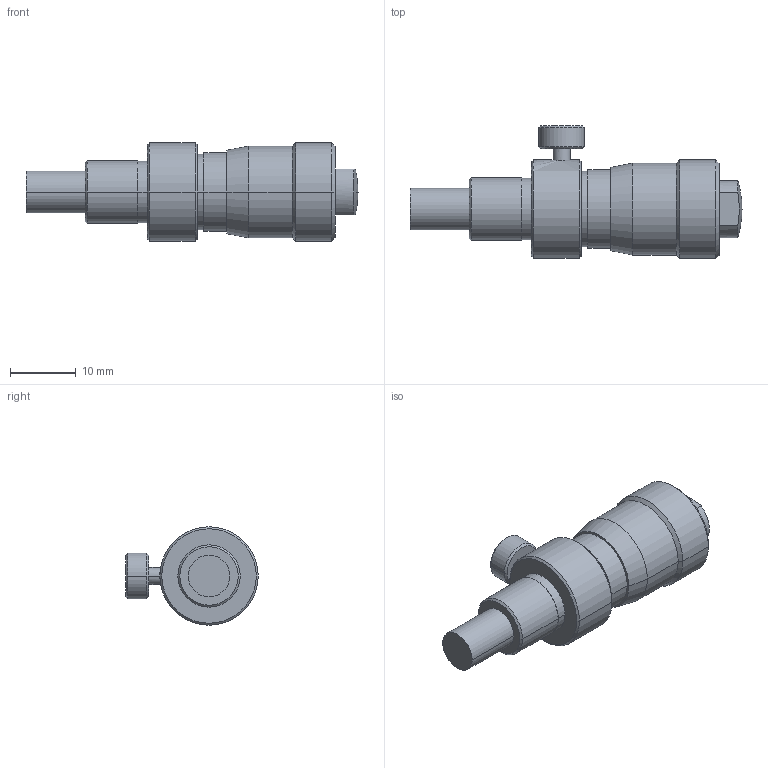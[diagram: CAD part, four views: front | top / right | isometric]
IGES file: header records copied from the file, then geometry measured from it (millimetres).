
Start section: Elysium IGES Interface
Global section: file name: 136HL:\商品設計部\部内\R_drv\99_受け渡しBOX\大竹\⇒賀藤さん\マイクロメータヘッド　CADデータ提供依頼\★3D_IGS完了\148-316-10_MHC1-6_5CLCA.igs; native system: Creo Elements/Direct Modeling 18.1H  24-Oct-2015; preprocessor: Creo Element/Direct IGES_3D V2.2; author: Unknown; organization: Unknown; date: 20220927.084232; units: millimetre
Bounding box: 50.6 x 20.2 x 15 mm (x, y, z)
Volume: 5743.9 mm3; surface area: 2382.3 mm2
Topology: 1 solids, 1 shells, 52 faces, 109 edges, 65 vertices
Faces by surface type: bspline 52
